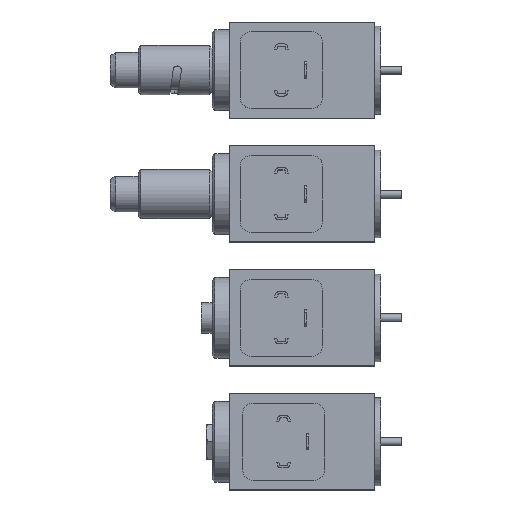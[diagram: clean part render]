
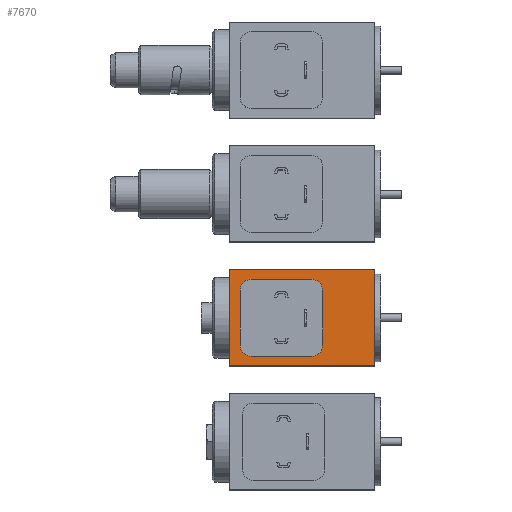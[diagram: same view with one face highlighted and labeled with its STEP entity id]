
A CAD part, top view. The second image highlights one B-rep face of the part: STEP entity #7670.
In plain terms, the highlighted planar face has unit normal (0, 0, 1).
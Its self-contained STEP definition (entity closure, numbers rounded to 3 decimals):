
#7670=ADVANCED_FACE('', (#7680,#7690,#7700,#7710,#7720), #7730, .T.);
#31840=AXIS2_PLACEMENT_3D('Ax2Pl3d', #31850, #31860, #31870);
#31920=AXIS2_PLACEMENT_3D('Ax2Pl3d', #31930, #31940, #31950);
#31960=AXIS2_PLACEMENT_3D('Ax2Pl3d', #31970, #31980, #31990);
#32000=AXIS2_PLACEMENT_3D('Ax2Pl3d', #32010, #32020, #32030);
#32040=AXIS2_PLACEMENT_3D('Ax2Pl3d', #32050, #32060, #32070);
#63510=CARTESIAN_POINT('', (53.,45.,115.));
#63520=CARTESIAN_POINT('', (53.,80.,115.));
#63530=CARTESIAN_POINT('', (53.,45.,115.));
#31850=CARTESIAN_POINT('HicPkt', (15.,62.5,115.));
#63630=CARTESIAN_POINT('', (15.,68.5,115.));
#31930=CARTESIAN_POINT('HicPkt', (53.,80.,115.));
#63650=CARTESIAN_POINT('', (0.,80.,115.));
#63660=CARTESIAN_POINT('', (0.,80.,115.));
#63670=CARTESIAN_POINT('', (0.,45.,115.));
#63680=CARTESIAN_POINT('', (0.,45.,115.));
#63690=CARTESIAN_POINT('', (0.,45.,115.));
#31970=CARTESIAN_POINT('HicPkt', (9.75,71.75,115.));
#63700=CARTESIAN_POINT('', (9.75,73.25,115.));
#32010=CARTESIAN_POINT('HicPkt', (25.5,62.5,115.));
#63710=CARTESIAN_POINT('', (25.5,64.,115.));
#32050=CARTESIAN_POINT('HicPkt', (28.25,53.25,115.));
#63720=CARTESIAN_POINT('', (28.25,54.75,115.));
#71040=CIRCLE('Circle', #31840, 6.);
#71060=CIRCLE('Circle', #31960, 1.5);
#71070=CIRCLE('Circle', #32000, 1.5);
#71080=CIRCLE('Circle', #32040, 1.5);
#107600=DIRECTION('', (0.,-1.,0.));
#31860=DIRECTION('Axis', (0.,0.,1.));
#31870=DIRECTION('RefDirection', (1.,0.,0.));
#31940=DIRECTION('Axis', (0.,0.,1.));
#31950=DIRECTION('RefDirection', (1.,0.,0.));
#107640=DIRECTION('', (-1.,0.,0.));
#107650=DIRECTION('', (0.,-1.,0.));
#107660=DIRECTION('', (-1.,0.,0.));
#31980=DIRECTION('Axis', (0.,0.,1.));
#31990=DIRECTION('RefDirection', (1.,0.,0.));
#32020=DIRECTION('Axis', (0.,0.,1.));
#32030=DIRECTION('RefDirection', (1.,0.,0.));
#32060=DIRECTION('Axis', (0.,0.,1.));
#32070=DIRECTION('RefDirection', (1.,0.,0.));
#120170=EDGE_CURVE('', #120180, #120190, #120200, .T.);
#120370=EDGE_CURVE('', #120380, #120380, #71040, .T.);
#120410=EDGE_CURVE('', #120180, #120420, #120430, .T.);
#120440=EDGE_CURVE('', #120420, #120450, #120460, .T.);
#120470=EDGE_CURVE('', #120190, #120450, #120480, .T.);
#120490=EDGE_CURVE('', #120500, #120500, #71060, .T.);
#120510=EDGE_CURVE('', #120520, #120520, #71070, .T.);
#120530=EDGE_CURVE('', #120540, #120540, #71080, .T.);
#142380=EDGE_LOOP('Edge_loop', (#142390,#142400,#142410,#142420));
#142430=EDGE_LOOP('Edge_loop', (#142440));
#142450=EDGE_LOOP('Edge_loop', (#142460));
#142470=EDGE_LOOP('Edge_loop', (#142480));
#142490=EDGE_LOOP('Edge_loop', (#142500));
#7690=FACE_BOUND('', #142430, .T.);
#7700=FACE_BOUND('', #142450, .T.);
#7710=FACE_BOUND('', #142470, .T.);
#7720=FACE_BOUND('', #142490, .T.);
#7680=FACE_OUTER_BOUND('Face_outer_bound', #142380, .T.);
#120200=LINE('Line', #63510, #168590);
#120430=LINE('Line', #63650, #168630);
#120460=LINE('Line', #63670, #168640);
#120480=LINE('Line', #63690, #168650);
#142390=ORIENTED_EDGE('', *, *, #120410, .T.);
#142400=ORIENTED_EDGE('', *, *, #120440, .T.);
#142410=ORIENTED_EDGE('', *, *, #120470, .F.);
#142420=ORIENTED_EDGE('', *, *, #120170, .F.);
#142440=ORIENTED_EDGE('', *, *, #120370, .F.);
#142460=ORIENTED_EDGE('', *, *, #120490, .F.);
#142480=ORIENTED_EDGE('', *, *, #120510, .F.);
#142500=ORIENTED_EDGE('', *, *, #120530, .F.);
#7730=PLANE('Plane', #31920);
#168590=VECTOR('', #107600, 35.);
#168630=VECTOR('', #107640, 53.);
#168640=VECTOR('', #107650, 35.);
#168650=VECTOR('', #107660, 53.);
#120180=VERTEX_POINT('', #63520);
#120190=VERTEX_POINT('', #63530);
#120380=VERTEX_POINT('', #63630);
#120420=VERTEX_POINT('', #63660);
#120450=VERTEX_POINT('', #63680);
#120500=VERTEX_POINT('', #63700);
#120520=VERTEX_POINT('', #63710);
#120540=VERTEX_POINT('', #63720);
